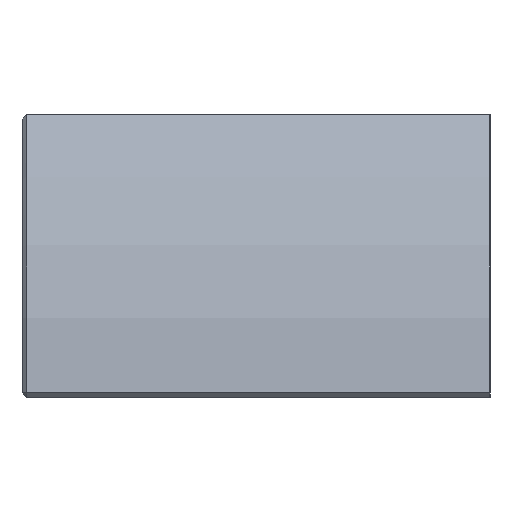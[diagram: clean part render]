
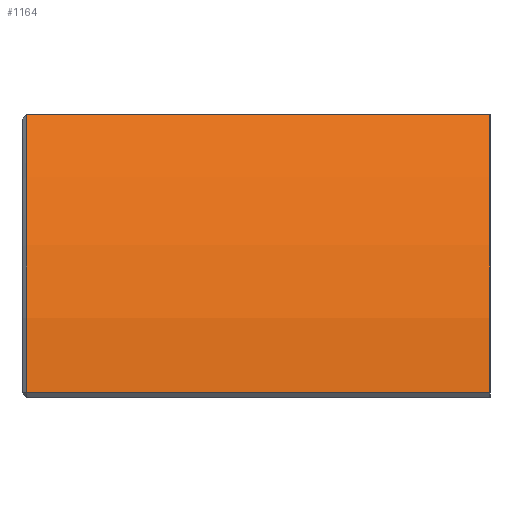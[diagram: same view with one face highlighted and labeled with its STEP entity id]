
A CAD part, left-side view. The second image highlights one B-rep face of the part: STEP entity #1164.
In plain terms, the highlighted cylindrical face has radius 77.75 mm (diameter 155.5 mm), a partial arc.
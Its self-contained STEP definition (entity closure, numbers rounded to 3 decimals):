
#23=CYLINDRICAL_SURFACE('',#1257,77.75);
#50=CIRCLE('',#1250,77.75);
#52=CIRCLE('',#1258,77.75);
#105=FACE_OUTER_BOUND('',#176,.T.);
#176=EDGE_LOOP('',(#827,#828,#829,#830));
#271=LINE('',#1769,#386);
#275=LINE('',#1779,#390);
#386=VECTOR('',#1410,10.);
#390=VECTOR('',#1422,10.);
#477=VERTEX_POINT('',#1682);
#493=VERTEX_POINT('',#1739);
#500=VERTEX_POINT('',#1767);
#502=VERTEX_POINT('',#1778);
#614=EDGE_CURVE('',#477,#493,#50,.T.);
#619=EDGE_CURVE('',#500,#477,#271,.T.);
#624=EDGE_CURVE('',#493,#502,#275,.T.);
#634=EDGE_CURVE('',#500,#502,#52,.F.);
#827=ORIENTED_EDGE('',*,*,#614,.F.);
#828=ORIENTED_EDGE('',*,*,#619,.F.);
#829=ORIENTED_EDGE('',*,*,#634,.T.);
#830=ORIENTED_EDGE('',*,*,#624,.F.);
#1164=ADVANCED_FACE('',(#105),#23,.T.);
#1250=AXIS2_PLACEMENT_3D('',#1758,#1400,#1401);
#1257=AXIS2_PLACEMENT_3D('',#1801,#1430,#1431);
#1258=AXIS2_PLACEMENT_3D('',#1802,#1432,#1433);
#1400=DIRECTION('center_axis',(0.,1.,0.));
#1401=DIRECTION('ref_axis',(-0.999,0.,-0.048));
#1410=DIRECTION('',(0.,1.,0.));
#1422=DIRECTION('',(0.,-1.,0.));
#1430=DIRECTION('center_axis',(0.,-1.,0.));
#1431=DIRECTION('ref_axis',(0.999,0.,0.048));
#1432=DIRECTION('center_axis',(0.,-1.,0.));
#1433=DIRECTION('ref_axis',(-0.766,0.,0.643));
#1682=CARTESIAN_POINT('',(-77.62,78.25,4.499));
#1739=CARTESIAN_POINT('',(-59.54,78.25,50.));
#1758=CARTESIAN_POINT('Origin',(0.,78.25,0.));
#1767=CARTESIAN_POINT('',(-77.62,2.5,4.499));
#1769=CARTESIAN_POINT('',(-77.62,79.,4.499));
#1778=CARTESIAN_POINT('',(-59.54,2.5,50.));
#1779=CARTESIAN_POINT('',(-59.54,79.,50.));
#1801=CARTESIAN_POINT('Origin',(0.,79.,0.));
#1802=CARTESIAN_POINT('Origin',(0.,2.5,0.));
